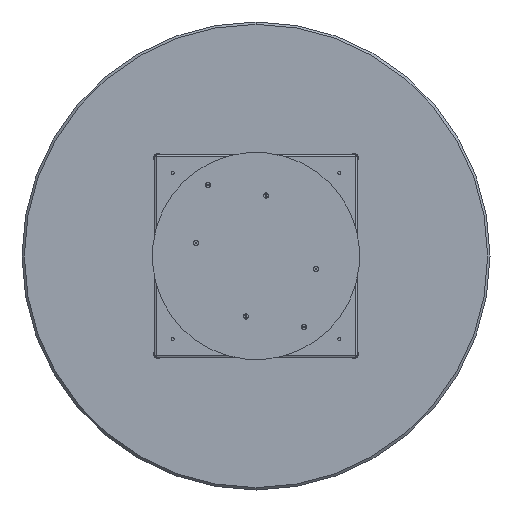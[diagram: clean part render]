
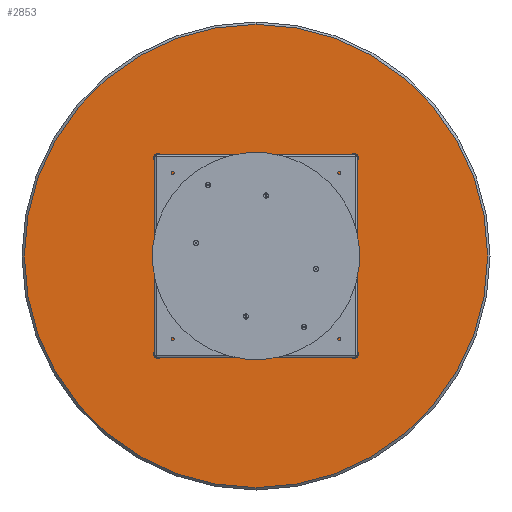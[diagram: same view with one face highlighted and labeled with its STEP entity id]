
A CAD part, front view. The second image highlights one B-rep face of the part: STEP entity #2853.
In plain terms, the highlighted planar face has unit normal (0, -1, 0).
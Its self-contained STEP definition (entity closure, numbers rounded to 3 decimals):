
#368 = VERTEX_POINT ( 'NONE', #17423 ) ;
#1211 = EDGE_CURVE ( 'NONE', #368, #13493, #15617, .T. ) ;
#2853 = ADVANCED_FACE ( 'NONE', ( #4865 ), #11903, .T. ) ;
#3670 = AXIS2_PLACEMENT_3D ( 'NONE', #3878, #5837, #15870 ) ;
#3878 = CARTESIAN_POINT ( 'NONE',  ( 0., 0., 0. ) ) ;
#4865 = FACE_OUTER_BOUND ( 'NONE', #6180, .T. ) ;
#5837 = DIRECTION ( 'NONE',  ( 0., -1., 0. ) ) ;
#5870 = CIRCLE ( 'NONE', #3670, 782. ) ;
#6180 = EDGE_LOOP ( 'NONE', ( #15937, #15525 ) ) ;
#6828 = DIRECTION ( 'NONE',  ( 0., -1., 0. ) ) ;
#8053 = EDGE_CURVE ( 'NONE', #13493, #368, #5870, .T. ) ;
#9676 = CARTESIAN_POINT ( 'NONE',  ( 0., 0., 0. ) ) ;
#11903 = PLANE ( 'NONE',  #21080 ) ;
#13493 = VERTEX_POINT ( 'NONE', #18551 ) ;
#15525 = ORIENTED_EDGE ( 'NONE', *, *, #8053, .T. ) ;
#15617 = CIRCLE ( 'NONE', #16346, 782. ) ;
#15870 = DIRECTION ( 'NONE',  ( 0., 0., -1. ) ) ;
#15937 = ORIENTED_EDGE ( 'NONE', *, *, #1211, .T. ) ;
#16346 = AXIS2_PLACEMENT_3D ( 'NONE', #9676, #18527, #21647 ) ;
#17423 = CARTESIAN_POINT ( 'NONE',  ( 0., 0., 782. ) ) ;
#18527 = DIRECTION ( 'NONE',  ( 0., -1., 0. ) ) ;
#18551 = CARTESIAN_POINT ( 'NONE',  ( 0., 0., -782. ) ) ;
#18913 = CARTESIAN_POINT ( 'NONE',  ( 0., 0., 0. ) ) ;
#19252 = DIRECTION ( 'NONE',  ( 0., 0., -1. ) ) ;
#21080 = AXIS2_PLACEMENT_3D ( 'NONE', #18913, #6828, #19252 ) ;
#21647 = DIRECTION ( 'NONE',  ( 0., 0., -1. ) ) ;
